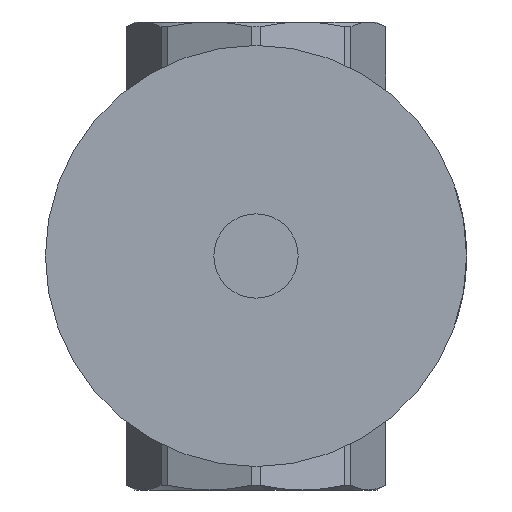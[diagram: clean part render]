
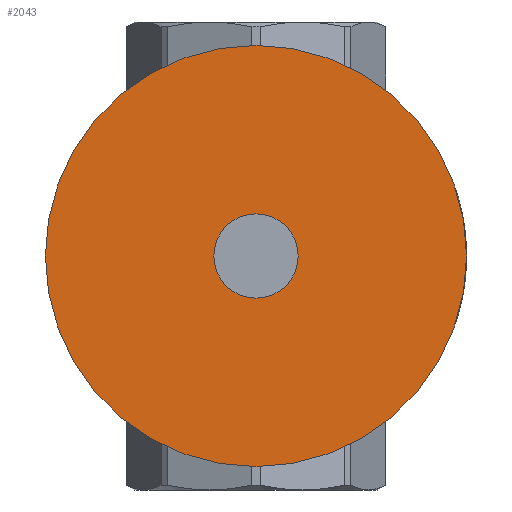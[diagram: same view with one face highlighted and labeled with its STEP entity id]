
A CAD part, left-side view. The second image highlights one B-rep face of the part: STEP entity #2043.
In plain terms, the highlighted planar face has unit normal (-1, 0, 0) as drawn and (0, 1, 0) by its records, which use the part's own axes.
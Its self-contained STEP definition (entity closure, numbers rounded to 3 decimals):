
#347=FACE_BOUND('',#695,.T.);
#490=FACE_OUTER_BOUND('',#694,.T.);
#694=EDGE_LOOP('',(#1824));
#695=EDGE_LOOP('',(#1825));
#842=CIRCLE('',#2315,22.5);
#843=CIRCLE('',#2316,4.5);
#1038=VERTEX_POINT('',#5110);
#1039=VERTEX_POINT('',#5112);
#1304=EDGE_CURVE('',#1038,#1038,#842,.T.);
#1305=EDGE_CURVE('',#1039,#1039,#843,.T.);
#1824=ORIENTED_EDGE('',*,*,#1304,.T.);
#1825=ORIENTED_EDGE('',*,*,#1305,.F.);
#1906=PLANE('',#2314);
#2043=ADVANCED_FACE('',(#490,#347),#1906,.T.);
#2314=AXIS2_PLACEMENT_3D('',#5109,#2887,#2888);
#2315=AXIS2_PLACEMENT_3D('',#5111,#2889,#2890);
#2316=AXIS2_PLACEMENT_3D('',#5113,#2891,#2892);
#2887=DIRECTION('center_axis',(0.,1.,0.));
#2888=DIRECTION('ref_axis',(0.,0.,1.));
#2889=DIRECTION('center_axis',(0.,1.,0.));
#2890=DIRECTION('ref_axis',(-1.,0.,0.));
#2891=DIRECTION('center_axis',(0.,1.,0.));
#2892=DIRECTION('ref_axis',(-1.,0.,0.));
#5109=CARTESIAN_POINT('Origin',(-13.5,16.,0.));
#5110=CARTESIAN_POINT('',(-22.5,16.,0.));
#5111=CARTESIAN_POINT('Origin',(0.,16.,0.));
#5112=CARTESIAN_POINT('',(-4.5,16.,0.));
#5113=CARTESIAN_POINT('Origin',(0.,16.,0.));
